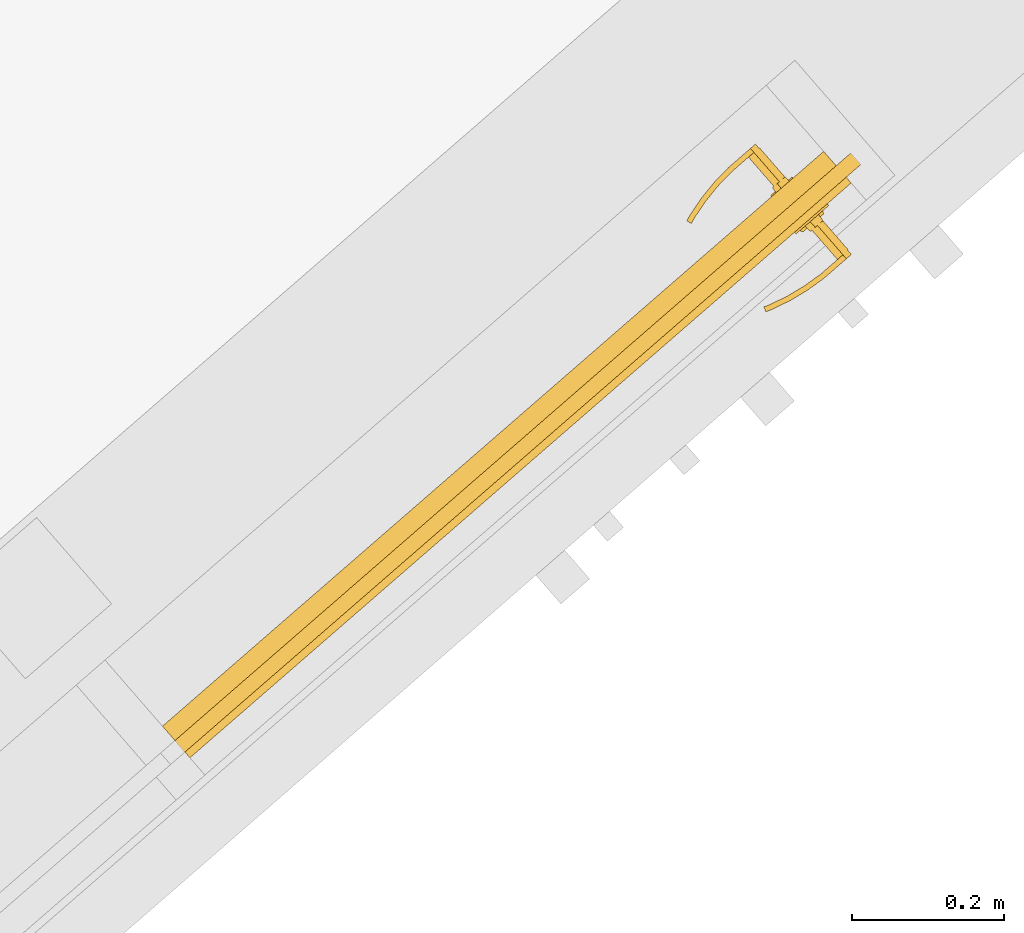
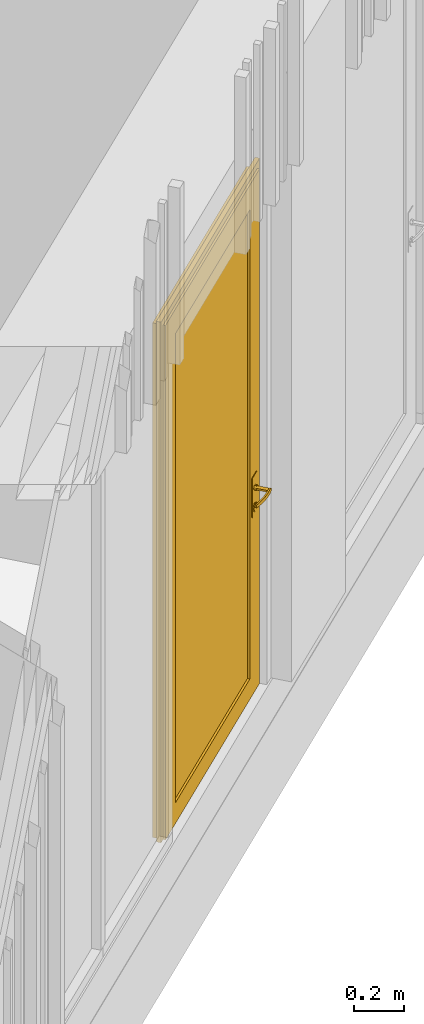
# One storey, part 107 of 124: 1 door, 1 element without a shape of its own.
"""IFC2X3 building model written with IfcOpenShell, lengths in millimetres."""

from ifc_helpers import new_model, entity, si_unit, converted_unit, derived_unit, money_unit, direction, frame, origin_with_axes, place, context, subcontext, project, spatial, open_shell, faceted_brep, surface_model, material, material_list, type_object, element, aggregate, save


model = new_model("IFC2X3")

# Units and contexts
model_context = context("Model", 3, precision=1e-05, world=origin_with_axes(), true_north=direction((0.0, 1.0)))
body_context = subcontext(model_context, "Body", "Model", "MODEL_VIEW")
ifc_project = project(units=[si_unit("LENGTHUNIT", "METRE", prefix="MILLI"), si_unit("AREAUNIT", "SQUARE_METRE"), si_unit("VOLUMEUNIT", "CUBIC_METRE"), converted_unit("PLANEANGLEUNIT", "DEGREE", entity("IfcPlaneAngleMeasure", 0.0174532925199), si_unit("PLANEANGLEUNIT", "RADIAN"), dimensions=[0, 0, 0, 0, 0, 0, 0]), si_unit("SOLIDANGLEUNIT", "STERADIAN"), money_unit("EUR"), converted_unit("TIMEUNIT", "Year", entity("IfcTimeMeasure", 31556926.0), si_unit("TIMEUNIT", "SECOND"), dimensions=[0, 0, 1, 0, 0, 0, 0]), si_unit("MASSUNIT", "GRAM", prefix="KILO"), si_unit("THERMODYNAMICTEMPERATUREUNIT", "DEGREE_CELSIUS"), si_unit("LUMINOUSINTENSITYUNIT", "LUMEN"), si_unit("ENERGYUNIT", "JOULE", prefix="MEGA"), derived_unit("THERMALCONDUCTANCEUNIT", [(si_unit("POWERUNIT", "WATT"), 1), (si_unit("LENGTHUNIT", "METRE"), -1), (si_unit("THERMODYNAMICTEMPERATUREUNIT", "KELVIN"), -1)]), derived_unit("SPECIFICHEATCAPACITYUNIT", [(si_unit("ENERGYUNIT", "JOULE"), 1), (si_unit("MASSUNIT", "GRAM", prefix="KILO"), -1), (si_unit("THERMODYNAMICTEMPERATUREUNIT", "KELVIN"), -1)]), derived_unit("MASSDENSITYUNIT", [(si_unit("MASSUNIT", "GRAM", prefix="KILO"), 1), (si_unit("VOLUMEUNIT", "CUBIC_METRE"), -1)])], contexts=[model_context])

# Site, building, storey
site_placement = place(None, origin_with_axes())
site = spatial("IfcSite", under=ifc_project, at=site_placement, Name="Site", CompositionType="ELEMENT")
building_placement = place(site_placement, origin_with_axes())
building = spatial("IfcBuilding", under=site, at=building_placement, Name="Building", CompositionType="ELEMENT")
storey_placement = place(building_placement, frame((0.0, 0.0, -1615.0), z_axis=(0.0, 0.0, 1.0), x_axis=(1.0, 0.0, 0.0)))
storey = spatial("IfcBuildingStorey", under=building, at=storey_placement, Name="0  korrus", CompositionType="ELEMENT", Elevation=-1615.0)

# Curtain wall, door
curtain_wall_type = type_object("IfcCurtainWallType", Name="KLF-05", PredefinedType="NOTDEFINED")
curtain_wall_placement = place(storey_placement, frame((156321.859107, 80733.7914725, 0.0), z_axis=(0.0, 0.0, 1.0), x_axis=(1.0, 0.0, 0.0)))
curtain_wall = element("IfcCurtainWall", 1, at=curtain_wall_placement, inside=storey, type_object=curtain_wall_type, Name="Klaasfassaad")
ifc_material_1 = material(Name="Aluminium MUST")
ifc_material_2 = material(Name="Klaas")
ifc_material_list = material_list([ifc_material_1, ifc_material_1, ifc_material_1, ifc_material_1, ifc_material_1, ifc_material_1, ifc_material_1, ifc_material_1, ifc_material_1, ifc_material_1, ifc_material_1, ifc_material_1, ifc_material_1, ifc_material_2, ifc_material_1, ifc_material_1, ifc_material_1, ifc_material_1, ifc_material_1, ifc_material_1, ifc_material_1, ifc_material_1, ifc_material_1, ifc_material_1, ifc_material_1, ifc_material_1, ifc_material_1, ifc_material_1])
door_style = type_object("IfcDoorStyle", Name="1205 x 2530 x 20", ConstructionType="NOTDEFINED", OperationType="NOTDEFINED", ParameterTakesPrecedence=False, Sizeable=False)
door_placement = place(curtain_wall_placement, frame((773.578485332, 672.45916384, 1275.00000397), z_axis=(0.0, 0.0, 1.0), x_axis=(-0.754710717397, -0.656057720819, 0.0)))
door = element("IfcDoor", 2, at=door_placement, type_object=door_style, material=ifc_material_list, Name="Klaasfassaadi integreeritud välisuks * CW Door 22", context=body_context, shape_type="SurfaceModel", body=[
    faceted_brep([(-562.499990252, -35.0, -1275.00000397), (-562.499990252, -35.0, 1224.99999711), (-562.499990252, -30.0, 1224.99999711), (-562.499990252, -30.0, -1275.00000397), (-517.499990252, -35.0, -1275.00000397), (-517.499990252, -35.0, 1179.99999711), (-517.499990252, -30.0, 1179.99999711), (-517.499990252, -30.0, -1275.00000397)], [[[0, 1, 2, 3]], [[0, 4, 5, 1]], [[1, 5, 6, 2]], [[3, 2, 6, 7]], [[4, 0, 3, 7]], [[5, 4, 7, 6]]]),
    faceted_brep([(587.500015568, -35.0, 1224.99999711), (542.500015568, -35.0, 1179.99999711), (542.500015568, -30.0, 1179.99999711), (587.500015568, -30.0, 1224.99999711), (-562.499990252, -35.0, 1224.99999711), (-517.499990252, -35.0, 1179.99999711), (-517.499990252, -30.0, 1179.99999711), (-562.499990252, -30.0, 1224.99999711)], [[[0, 1, 2, 3]], [[0, 4, 5, 1]], [[1, 5, 6, 2]], [[3, 2, 6, 7]], [[4, 0, 3, 7]], [[5, 4, 7, 6]]]),
    faceted_brep([(587.500015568, -35.0, -1275.00000397), (542.500015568, -35.0, -1275.00000397), (542.500015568, -30.0, -1275.00000397), (587.500015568, -30.0, -1275.00000397), (587.500015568, -35.0, 1224.99999711), (542.500015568, -35.0, 1179.99999711), (542.500015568, -30.0, 1179.99999711), (587.500015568, -30.0, 1224.99999711)], [[[0, 1, 2, 3]], [[0, 4, 5, 1]], [[1, 5, 6, 2]], [[3, 2, 6, 7]], [[4, 0, 3, 7]], [[5, 4, 7, 6]]]),
    faceted_brep([(-562.499990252, -30.0, -1275.00000397), (-562.499990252, -30.0, 1224.99999711), (-562.499990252, 20.0, 1224.99999711), (-562.499990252, 20.0, -1275.00000397), (-542.499990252, -30.0, -1275.00000397), (-542.499990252, -30.0, 1204.99999711), (-542.499990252, 20.0, 1204.99999711), (-542.499990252, 20.0, -1275.00000397)], [[[0, 1, 2, 3]], [[0, 4, 5, 1]], [[1, 5, 6, 2]], [[3, 2, 6, 7]], [[4, 0, 3, 7]], [[5, 4, 7, 6]]]),
    faceted_brep([(587.500015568, -30.0, 1224.99999711), (567.500015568, -30.0, 1204.99999711), (567.500015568, 20.0, 1204.99999711), (587.500015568, 20.0, 1224.99999711), (-562.499990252, -30.0, 1224.99999711), (-542.499990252, -30.0, 1204.99999711), (-542.499990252, 20.0, 1204.99999711), (-562.499990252, 20.0, 1224.99999711)], [[[0, 1, 2, 3]], [[0, 4, 5, 1]], [[1, 5, 6, 2]], [[3, 2, 6, 7]], [[4, 0, 3, 7]], [[5, 4, 7, 6]]]),
    faceted_brep([(587.500015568, -30.0, -1275.00000397), (567.500015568, -30.0, -1275.00000397), (567.500015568, 20.0, -1275.00000397), (587.500015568, 20.0, -1275.00000397), (587.500015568, -30.0, 1224.99999711), (567.500015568, -30.0, 1204.99999711), (567.500015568, 20.0, 1204.99999711), (587.500015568, 20.0, 1224.99999711)], [[[0, 1, 2, 3]], [[0, 4, 5, 1]], [[1, 5, 6, 2]], [[3, 2, 6, 7]], [[4, 0, 3, 7]], [[5, 4, 7, 6]]]),
    faceted_brep([(-592.500021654, -10.0, -1275.00000397), (-592.500021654, -10.0, 1254.99998603), (-592.500021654, 10.0, 1254.99998603), (-592.500021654, 10.0, -1275.00000397), (-562.499990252, -10.0, -1275.00000397), (-562.499990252, -10.0, 1224.99999711), (-562.499990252, 9.99999999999, 1224.99999711), (-562.499990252, 9.99999999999, -1275.00000397)], [[[0, 1, 2, 3]], [[0, 4, 5, 1]], [[1, 5, 6, 2]], [[3, 2, 6, 7]], [[4, 0, 3, 7]], [[5, 4, 7, 6]]]),
    faceted_brep([(-592.500021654, -10.0, 1254.99998603), (612.499995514, -10.0, 1254.99998603), (612.499995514, 9.99999999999, 1254.99998603), (-592.500021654, 10.0, 1254.99998603), (-562.499990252, -10.0, 1224.99999711), (587.500015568, -10.0, 1224.99999711), (587.500015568, 9.99999999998, 1224.99999711), (-562.499990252, 9.99999999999, 1224.99999711)], [[[0, 1, 2, 3]], [[0, 4, 5, 1]], [[1, 5, 6, 2]], [[3, 2, 6, 7]], [[4, 0, 3, 7]], [[5, 4, 7, 6]]]),
    faceted_brep([(612.499995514, -10.0, 1254.99998603), (612.499995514, -10.0, -1275.00000397), (612.499995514, 9.99999999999, -1275.00000397), (612.499995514, 9.99999999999, 1254.99998603), (587.500015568, -10.0, 1224.99999711), (587.500015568, -10.0, -1275.00000397), (587.500015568, 9.99999999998, -1275.00000397), (587.500015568, 9.99999999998, 1224.99999711)], [[[0, 1, 2, 3]], [[0, 4, 5, 1]], [[1, 5, 6, 2]], [[3, 2, 6, 7]], [[4, 0, 3, 7]], [[5, 4, 7, 6]]]),
    faceted_brep([(467.500015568, -30.0, -1175.00000397), (467.500015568, -30.0, 1104.99999711), (467.500015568, 20.0, 1104.99999711), (467.500015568, 20.0, -1175.00000397), (567.500015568, -30.0, -1275.00000397), (567.500015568, -30.0, 1204.99999711), (567.500015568, 20.0, 1204.99999711), (567.500015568, 20.0, -1275.00000397)], [[[0, 1, 2, 3]], [[0, 4, 5, 1]], [[1, 5, 6, 2]], [[3, 2, 6, 7]], [[4, 0, 3, 7]], [[5, 4, 7, 6]]]),
    faceted_brep([(-542.499990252, -30.0, -1275.00000397), (-542.499990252, -30.0, 1204.99999711), (-542.499990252, 20.0, 1204.99999711), (-542.499990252, 20.0, -1275.00000397), (-442.499990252, -30.0, -1175.00000397), (-442.499990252, -30.0, 1104.99999711), (-442.499990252, 20.0, 1104.99999711), (-442.499990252, 20.0, -1175.00000397)], [[[0, 1, 2, 3]], [[0, 4, 5, 1]], [[1, 5, 6, 2]], [[3, 2, 6, 7]], [[4, 0, 3, 7]], [[5, 4, 7, 6]]]),
    faceted_brep([(-542.499990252, -30.0, -1275.00000397), (-442.499990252, -30.0, -1175.00000397), (-442.499990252, 20.0, -1175.00000397), (-542.499990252, 20.0, -1275.00000397), (567.500015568, -30.0, -1275.00000397), (467.500015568, -30.0, -1175.00000397), (467.500015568, 20.0, -1175.00000397), (567.500015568, 20.0, -1275.00000397)], [[[0, 1, 2, 3]], [[0, 4, 5, 1]], [[1, 5, 6, 2]], [[3, 2, 6, 7]], [[4, 0, 3, 7]], [[5, 4, 7, 6]]]),
    faceted_brep([(567.500015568, -30.0, 1204.99999711), (467.500015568, -30.0, 1104.99999711), (467.500015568, 20.0, 1104.99999711), (567.500015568, 20.0, 1204.99999711), (-542.499990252, -30.0, 1204.99999711), (-442.499990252, -30.0, 1104.99999711), (-442.499990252, 20.0, 1104.99999711), (-542.499990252, 20.0, 1204.99999711)], [[[0, 1, 2, 3]], [[0, 4, 5, 1]], [[1, 5, 6, 2]], [[3, 2, 6, 7]], [[4, 0, 3, 7]], [[5, 4, 7, 6]]]),
    faceted_brep([(467.500015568, -5.99999999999, -1175.00000397), (-442.499990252, -5.99999999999, -1175.00000397), (-442.499990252, 9.99999999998, -1175.00000397), (467.500015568, 9.99999999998, -1175.00000397), (467.500015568, -5.99999999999, 1104.99999711), (-442.499990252, -5.99999999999, 1104.99999711), (-442.499990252, 9.99999999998, 1104.99999711), (467.500015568, 9.99999999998, 1104.99999711)], [[[0, 1, 2, 3]], [[0, 4, 5, 1]], [[1, 5, 6, 2]], [[3, 2, 6, 7]], [[4, 0, 3, 7]], [[5, 4, 7, 6]]]),
    faceted_brep([(-520.999990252, 20.0, -215.000003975), (-463.999990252, 20.0, -215.000003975), (-463.999990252, 23.0, -215.000003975), (-520.999990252, 23.0, -215.000003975), (-520.999990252, 20.0, -405.000003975), (-463.999990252, 20.0, -405.000003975), (-463.999990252, 23.0, -405.000003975), (-520.999990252, 23.0, -405.000003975)], [[[0, 1, 2, 3]], [[0, 4, 5, 1]], [[1, 5, 6, 2]], [[3, 2, 6, 7]], [[4, 0, 3, 7]], [[5, 4, 7, 6]]]),
    surface_model("IfcShellBasedSurfaceModel", [(-492.499990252, 84.0, -285.000003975), (-501.16024429, 84.0, -280.000003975), (-501.16024429, 91.0, -280.000003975), (-492.499990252, 91.0, -285.000003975), (-467.499990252, 84.0, -285.000003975), (-467.499990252, 84.0, -265.000003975), (-492.499990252, 84.0, -265.000003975), (-501.16024429, 84.0, -270.000003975), (-501.16024429, 91.0, -270.000003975), (-492.499990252, 91.0, -265.000003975), (-467.499990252, 91.0, -265.000003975), (-467.499990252, 91.0, -285.000003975)], [open_shell([[[0, 1, 2, 3]], [[0, 4, 5, 6, 7, 1]], [[1, 7, 8, 2]], [[3, 2, 8, 9, 10, 11]], [[4, 0, 3, 11]], [[6, 5, 10, 9]], [[7, 6, 9, 8]]])]),
    surface_model("IfcShellBasedSurfaceModel", [(-467.499990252, 84.0, -265.000003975), (-454.40170738, 84.0, -265.392703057), (-454.096080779, 91.0, -265.392703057), (-467.499990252, 84.0, -285.000003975), (-454.40170738, 84.0, -284.607304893), (-427.390273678, 88.6635446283, -266.17810122), (-467.499990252, 91.0, -265.000003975), (-467.499990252, 91.0, -285.000003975), (-428.304827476, 81.716818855, -283.82190673), (-428.304827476, 81.716818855, -266.17810122), (-427.390273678, 88.6635446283, -283.82190673), (-454.096080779, 91.0, -284.607304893), (-402.506246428, 77.1678329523, -283.036508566), (-402.506246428, 77.1678329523, -266.963499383), (-400.989725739, 84.0084157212, -266.963499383), (-400.989725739, 84.0084157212, -283.036508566), (-377.202307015, 70.3876628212, -282.251110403), (-377.202307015, 70.3876628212, -267.748897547), (-375.095361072, 77.0700416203, -267.748897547), (-375.095361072, 77.0700416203, -282.251110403), (-369.329432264, 67.5221707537, -282.000003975), (-369.329432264, 67.5221707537, -268.000003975), (-367.038785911, 74.1376880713, -268.000003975), (-367.038785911, 74.1376880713, -282.000003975)], [open_shell([[[0, 1, 2]], [[0, 3, 4, 1]], [[1, 5, 2]], [[0, 2, 6]], [[4, 3, 7]], [[1, 4, 8, 9]], [[1, 9, 5]], [[2, 5, 10, 11]], [[6, 2, 11, 7]], [[4, 7, 11]], [[8, 4, 11]], [[9, 8, 12, 13]], [[9, 14, 5]], [[5, 14, 15, 10]], [[8, 11, 10]], [[12, 8, 10]], [[13, 12, 16, 17]], [[9, 13, 14]], [[14, 18, 19, 15]], [[12, 10, 15]], [[16, 12, 15]], [[17, 16, 20, 21]], [[13, 17, 18]], [[13, 18, 14]], [[18, 22, 23, 19]], [[16, 15, 19]], [[20, 16, 19]], [[21, 20, 23, 22]], [[17, 21, 22]], [[17, 22, 18]], [[20, 19, 23]]])]),
    faceted_brep([(-488.79178632, 33.0, -286.41268217), (-480.499990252, 33.0, -275.000003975), (-479.499990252, 23.0, -275.000003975), (-488.482769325, 23.0, -287.363738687), (-502.208194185, 33.0, -282.053427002), (-502.208194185, 33.0, -267.946580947), (-488.79178632, 33.0, -263.587325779), (-488.482769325, 23.0, -262.636269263), (-503.017211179, 23.0, -267.358795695), (-503.017211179, 23.0, -282.641212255)], [[[0, 1, 2, 3]], [[1, 0, 4, 5, 6]], [[1, 6, 7, 2]], [[2, 7, 8, 9, 3]], [[4, 0, 3, 9]], [[5, 4, 9, 8]], [[6, 5, 8, 7]]]),
    faceted_brep([(-486.319650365, 27.0, -389.021134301), (-472.499990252, 27.0, -370.000003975), (-470.499990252, 23.0, -370.000003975), (-485.701616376, 23.0, -390.923247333), (-508.68033014, 27.0, -381.755709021), (-508.68033014, 27.0, -358.244298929), (-486.319650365, 27.0, -350.978873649), (-485.701616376, 23.0, -349.076760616), (-510.298364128, 23.0, -357.068728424), (-510.298364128, 23.0, -382.931279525)], [[[0, 1, 2, 3]], [[1, 0, 4, 5, 6]], [[1, 6, 7, 2]], [[2, 7, 8, 9, 3]], [[4, 0, 3, 9]], [[5, 4, 9, 8]], [[6, 5, 8, 7]]]),
    faceted_brep([(-490.336871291, 29.0, -367.657399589), (-485.499990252, 29.0, -361.000003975), (-484.499990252, 27.0, -361.000003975), (-490.027854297, 27.0, -368.608456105), (-498.163109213, 29.0, -365.114500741), (-498.163109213, 29.0, -356.885507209), (-490.336871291, 29.0, -354.342608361), (-490.027854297, 27.0, -353.391551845), (-498.972126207, 27.0, -356.297721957), (-498.972126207, 27.0, -365.702285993)], [[[0, 1, 2, 3]], [[1, 0, 4, 5, 6]], [[1, 6, 7, 2]], [[2, 7, 8, 9, 3]], [[4, 0, 3, 9]], [[5, 4, 9, 8]], [[6, 5, 8, 7]]]),
    faceted_brep([(-492.499990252, 33.0, -265.000003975), (-482.989425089, 33.0, -271.909834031), (-482.989425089, 84.0, -271.909834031), (-492.499990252, 84.0, -265.000003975), (-502.010555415, 33.0, -271.909834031), (-498.377842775, 33.0, -283.090173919), (-486.622137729, 33.0, -283.090173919), (-486.622137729, 84.0, -283.090173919), (-498.377842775, 84.0, -283.090173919), (-502.010555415, 84.0, -271.909834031)], [[[0, 1, 2, 3]], [[0, 4, 5, 6, 1]], [[1, 6, 7, 2]], [[3, 2, 7, 8, 9]], [[4, 0, 3, 9]], [[5, 4, 9, 8]], [[6, 5, 8, 7]]]),
    faceted_brep([(-520.999990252, -30.0, -215.000003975), (-520.999990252, -33.0, -215.000003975), (-463.999990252, -33.0, -215.000003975), (-463.999990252, -30.0, -215.000003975), (-520.999990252, -30.0, -405.000003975), (-520.999990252, -33.0, -405.000003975), (-463.999990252, -33.0, -405.000003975), (-463.999990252, -30.0, -405.000003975)], [[[0, 1, 2, 3]], [[4, 5, 1, 0]], [[1, 5, 6, 2]], [[3, 2, 6, 7]], [[0, 3, 7, 4]], [[7, 6, 5, 4]]]),
    surface_model("IfcShellBasedSurfaceModel", [(-492.499990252, -94.0, -285.000003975), (-492.499990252, -101.0, -285.000003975), (-501.16024429, -101.0, -280.000003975), (-501.16024429, -94.0, -280.000003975), (-467.499990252, -94.0, -285.000003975), (-467.499990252, -101.0, -285.000003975), (-467.499990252, -101.0, -265.000003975), (-492.499990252, -101.0, -265.000003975), (-501.16024429, -101.0, -270.000003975), (-501.16024429, -94.0, -270.000003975), (-492.499990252, -94.0, -265.000003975), (-467.499990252, -94.0, -265.000003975)], [open_shell([[[0, 1, 2, 3]], [[4, 5, 1, 0]], [[1, 5, 6, 7, 8, 2]], [[3, 2, 8, 9]], [[0, 3, 9, 10, 11, 4]], [[10, 7, 6, 11]], [[9, 8, 7, 10]]])]),
    surface_model("IfcShellBasedSurfaceModel", [(-467.499990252, -94.0, -265.000003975), (-454.096080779, -101.0, -265.392703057), (-454.40170738, -94.0, -265.392703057), (-467.499990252, -101.0, -265.000003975), (-427.390273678, -98.6635446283, -266.17810122), (-454.40170738, -94.0, -284.607304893), (-467.499990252, -94.0, -285.000003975), (-467.499990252, -101.0, -285.000003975), (-454.096080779, -101.0, -284.607304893), (-427.390273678, -98.6635446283, -283.82190673), (-428.304827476, -91.7168188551, -266.17810122), (-428.304827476, -91.7168188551, -283.82190673), (-400.989725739, -94.0084157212, -283.036508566), (-400.989725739, -94.0084157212, -266.963499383), (-402.506246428, -87.1678329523, -266.963499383), (-402.506246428, -87.1678329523, -283.036508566), (-375.095361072, -87.0700416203, -282.251110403), (-375.095361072, -87.0700416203, -267.748897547), (-377.202307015, -80.3876628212, -267.748897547), (-377.202307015, -80.3876628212, -282.251110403), (-367.038785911, -84.1376880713, -282.000003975), (-367.038785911, -84.1376880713, -268.000003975), (-369.329432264, -77.5221707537, -268.000003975), (-369.329432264, -77.5221707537, -282.000003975)], [open_shell([[[0, 1, 2]], [[0, 3, 1]], [[2, 1, 4]], [[0, 2, 5, 6]], [[3, 7, 8, 1]], [[1, 8, 9, 4]], [[2, 4, 10]], [[2, 10, 11, 5]], [[5, 7, 6]], [[5, 8, 7]], [[11, 9, 8]], [[4, 9, 12, 13]], [[10, 4, 13]], [[10, 14, 15, 11]], [[11, 8, 5]], [[15, 9, 11]], [[15, 12, 9]], [[13, 12, 16, 17]], [[10, 13, 14]], [[14, 18, 19, 15]], [[19, 12, 15]], [[19, 16, 12]], [[17, 16, 20, 21]], [[14, 13, 17]], [[14, 17, 18]], [[18, 22, 23, 19]], [[23, 16, 19]], [[23, 20, 16]], [[22, 21, 20, 23]], [[18, 17, 21]], [[18, 21, 22]]])]),
    faceted_brep([(-488.79178632, -43.0, -286.41268217), (-488.482769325, -33.0, -287.363738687), (-479.499990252, -33.0, -275.000003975), (-480.499990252, -43.0, -275.000003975), (-502.208194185, -43.0, -282.053427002), (-503.017211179, -33.0, -282.641212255), (-503.017211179, -33.0, -267.358795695), (-488.482769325, -33.0, -262.636269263), (-488.79178632, -43.0, -263.587325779), (-502.208194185, -43.0, -267.946580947)], [[[0, 1, 2, 3]], [[4, 5, 1, 0]], [[2, 1, 5, 6, 7]], [[3, 2, 7, 8]], [[3, 8, 9, 4, 0]], [[9, 6, 5, 4]], [[8, 7, 6, 9]]]),
    faceted_brep([(-486.319650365, -37.0, -389.021134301), (-485.701616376, -33.0, -390.923247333), (-470.499990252, -33.0, -370.000003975), (-472.499990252, -37.0, -370.000003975), (-508.68033014, -37.0, -381.755709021), (-510.298364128, -33.0, -382.931279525), (-510.298364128, -33.0, -357.068728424), (-485.701616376, -33.0, -349.076760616), (-486.319650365, -37.0, -350.978873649), (-508.68033014, -37.0, -358.244298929)], [[[0, 1, 2, 3]], [[4, 5, 1, 0]], [[2, 1, 5, 6, 7]], [[3, 2, 7, 8]], [[3, 8, 9, 4, 0]], [[9, 6, 5, 4]], [[8, 7, 6, 9]]]),
    faceted_brep([(-490.336871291, -39.0, -367.657399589), (-490.027854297, -37.0, -368.608456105), (-484.499990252, -37.0, -361.000003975), (-485.499990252, -39.0, -361.000003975), (-498.163109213, -39.0, -365.114500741), (-498.972126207, -37.0, -365.702285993), (-498.972126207, -37.0, -356.297721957), (-490.027854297, -37.0, -353.391551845), (-490.336871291, -39.0, -354.342608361), (-498.163109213, -39.0, -356.885507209)], [[[0, 1, 2, 3]], [[4, 5, 1, 0]], [[2, 1, 5, 6, 7]], [[3, 2, 7, 8]], [[3, 8, 9, 4, 0]], [[9, 6, 5, 4]], [[8, 7, 6, 9]]]),
    faceted_brep([(-492.499990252, -43.0, -265.000003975), (-492.499990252, -94.0, -265.000003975), (-482.989425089, -94.0, -271.909834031), (-482.989425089, -43.0, -271.909834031), (-502.010555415, -43.0, -271.909834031), (-502.010555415, -94.0, -271.909834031), (-498.377842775, -94.0, -283.090173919), (-486.622137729, -94.0, -283.090173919), (-486.622137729, -43.0, -283.090173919), (-498.377842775, -43.0, -283.090173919)], [[[0, 1, 2, 3]], [[4, 5, 1, 0]], [[1, 5, 6, 7, 2]], [[3, 2, 7, 8]], [[0, 3, 8, 9, 4]], [[9, 6, 5, 4]], [[8, 7, 6, 9]]]),
])
aggregate(curtain_wall, [door])

save(model, "model.ifc")
